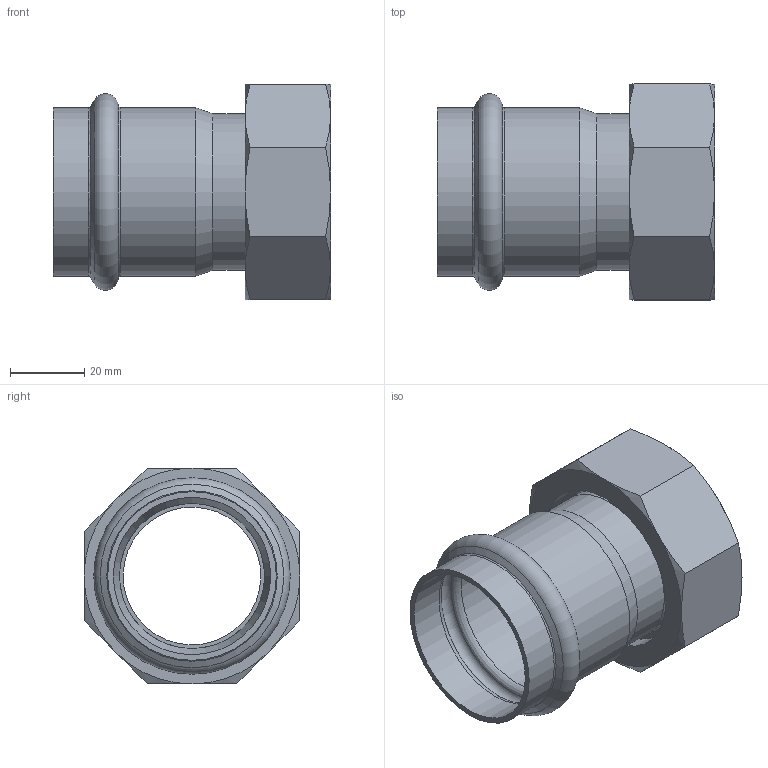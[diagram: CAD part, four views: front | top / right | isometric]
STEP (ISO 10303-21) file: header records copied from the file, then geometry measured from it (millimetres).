
FILE_DESCRIPTION((''),'2;1');
FILE_NAME('G:\Nirosan-Schmiedefeld\Technics\CAD\Bauteile VA\042\69359m42134(2).stp','2011-01-05T07:37:41',('herberg'),(''),'Autodesk Inventor 2009','Autodesk Inventor 2009','');
FILE_SCHEMA(('AUTOMOTIVE_DESIGN { 1 0 10303 214 1 1 1 1 }'));
Length unit declared in the file: millimetre
Products named in the file (5): 69359m42134(2); HM_6924342(2); R42134(1); FD_5037_EPDM(0); AM42134(3)
Assembly tree (4 placements, depth 2):
  69359m42134(2)
    HM_6924342(2)
    R42134(1)
    FD_5037_EPDM(0)
    AM42134(3)
Bounding box: 74.5 x 58 x 58 mm (x, y, z)
Volume: 36083.4 mm3; surface area: 31742.9 mm2
Topology: 4 solids, 4 shells, 59 faces, 117 edges, 68 vertices
Faces by surface type: cone 21, plane 17, cylinder 11, bspline 8, torus 2
Full cylindrical faces by diameter (mm): 37 x1, 39 x2, 42 x2, 42.3 x2, 45.3 x2, 49 x1, 50 x1
Entity records: 1724 total; most frequent: CARTESIAN_POINT 545, DIRECTION 228, ORIENTED_EDGE 180, AXIS2_PLACEMENT_3D 110, EDGE_LOOP 94, EDGE_CURVE 90, VERTEX_POINT 66, FACE_OUTER_BOUND 59
